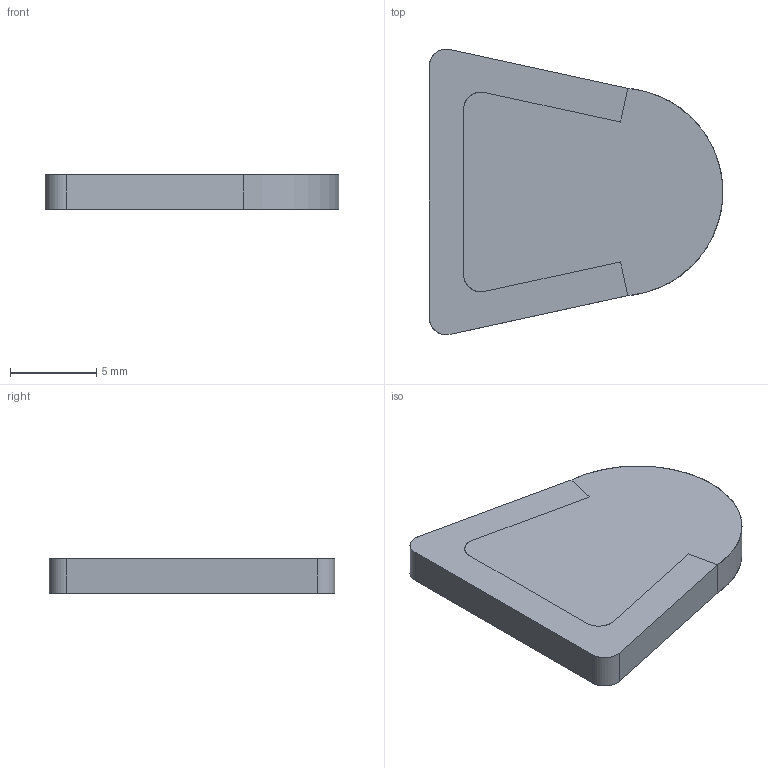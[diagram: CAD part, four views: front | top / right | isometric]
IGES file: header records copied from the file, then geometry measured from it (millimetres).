
Start section: SolidWorks IGES file using analytic representation for surfaces
Global section: file name: C:\Documents and Settings\URETIM3\Desktop\yeni katalog tolgay düzenli\E kataloðu\OVAL BALIK SIRTI PROFÝL ALPOLEN 1000\MONTAJ\206 KSA 101mntj.IGS; native system: SolidWorks 2006 by SolidWorks Corporation; preprocessor: SolidWorks 2006 by SolidWorks Corporation; author: URETIM3; date: 060912.164030; units: millimetre
Bounding box: 17 x 16.52 x 2 mm (x, y, z)
Surface area: 594 mm2 (no closed solid volume)
Topology: 0 solids, 0 shells, 16 faces, 202 edges, 202 vertices
Faces by surface type: bspline 9, revolution 7
